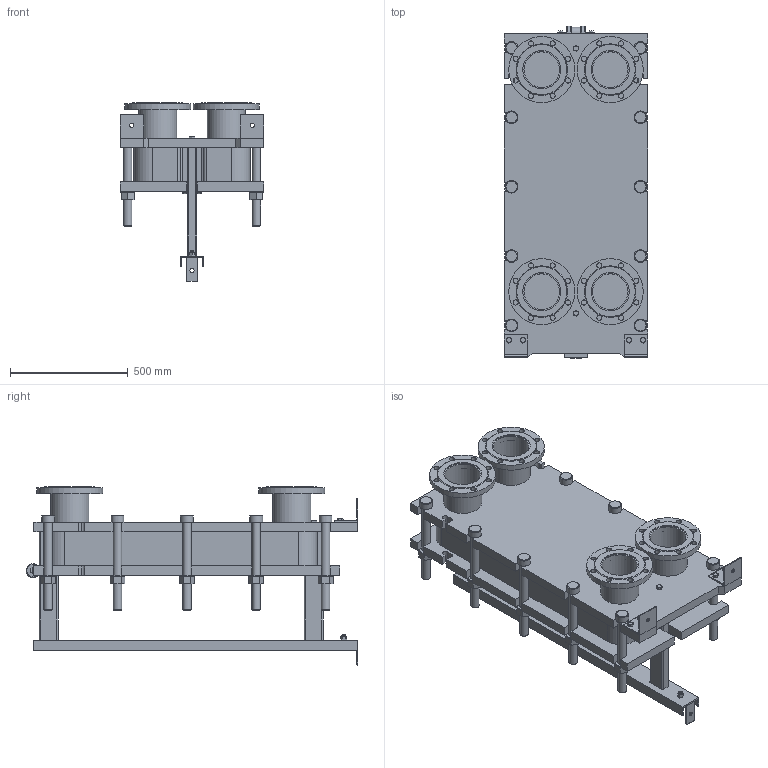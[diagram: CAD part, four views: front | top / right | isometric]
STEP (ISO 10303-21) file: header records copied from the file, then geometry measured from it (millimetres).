
FILE_DESCRIPTION(/* description */ (''),/* implementation_level */ '2;1');
FILE_NAME(/* name */ 'C:\Users\zhuro\Desktop\ENCO\TO\ЭН-041\ЭН-0,5-041-42-1.stp',/* time_stamp */ '2022-06-06T10:52:07+03:00',/* author */ ('zhuro'),/* organization */ (''),/* preprocessor_version */ 'ST-DEVELOPER v18.1',/* originating_system */ 'Autodesk Inventor 2022',/* authorisation */ '');
FILE_SCHEMA (('AUTOMOTIVE_DESIGN { 1 0 10303 214 3 1 1 }'));
Length unit declared in the file: millimetre
Products named in the file (1): ЭН-0,5-041-42-1
Bounding box: 610 x 1406.5 x 755 mm (x, y, z)
Volume: 157894505.2 mm3; surface area: 7745658.7 mm2
Topology: 52 solids, 52 shells, 711 faces, 1696 edges, 1094 vertices
Faces by surface type: plane 487, cylinder 177, cone 41, torus 6
Full cylindrical faces by diameter (mm): 8 x4, 10 x2, 16 x8, 18 x3, 22 x32, 36 x24, 50 x1, 54 x10, 60 x12, 151 x4, 161 x8, 280 x4
Entity records: 22667 total; most frequent: CARTESIAN_POINT 5230, DIRECTION 3644, ORIENTED_EDGE 3392, EDGE_CURVE 1696, AXIS2_PLACEMENT_3D 1272, LINE 1100, VECTOR 1100, VERTEX_POINT 1094
